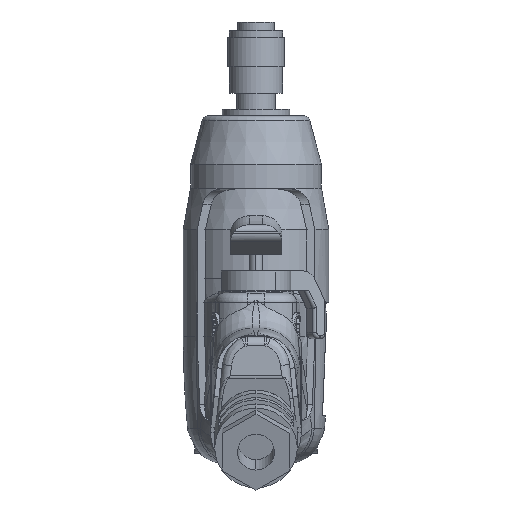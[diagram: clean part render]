
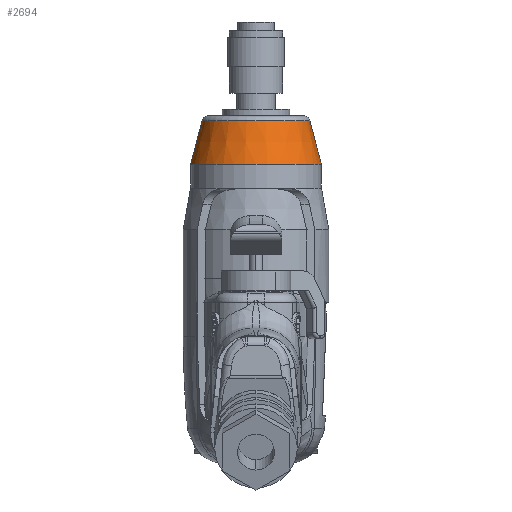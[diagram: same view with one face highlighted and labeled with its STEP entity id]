
A CAD part, front view. The second image highlights one B-rep face of the part: STEP entity #2694.
In plain terms, the highlighted conical face has half-angle 15 degrees and reference radius 16.221 mm.
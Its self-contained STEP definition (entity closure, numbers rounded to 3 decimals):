
#35 = EDGE_CURVE ( 'NONE', #105397, #105901, #8920, .T. ) ;
#70 = EDGE_CURVE ( 'NONE', #105457, #105783, #8992, .T. ) ;
#2557 = EDGE_CURVE ( 'NONE', #105901, #105783, #13914, .T. ) ;
#2694 = ADVANCED_FACE ( 'NONE', ( #14562 ), #14593, .T. ) ;
#2695 = ORIENTED_EDGE ( 'NONE', *, *, #70, .F. ) ;
#2696 = ORIENTED_EDGE ( 'NONE', *, *, #105556, .T. ) ;
#2697 = ORIENTED_EDGE ( 'NONE', *, *, #35, .T. ) ;
#2698 = ORIENTED_EDGE ( 'NONE', *, *, #2557, .T. ) ;
#2709 = EDGE_LOOP ( 'NONE', ( #2695, #2696, #2697, #2698 ) ) ;
#8917 = DIRECTION ( 'NONE',  ( -0.259, 0., -0.966 ) ) ;
#8918 = VECTOR ( 'NONE', #8917, 1000. ) ;
#8919 = CARTESIAN_POINT ( 'NONE',  ( -16.221, 0., -15.3 ) ) ;
#8920 = LINE ( 'NONE', #8919, #8918 ) ;
#8989 = DIRECTION ( 'NONE',  ( 0.259, 0., -0.966 ) ) ;
#8990 = VECTOR ( 'NONE', #8989, 1000. ) ;
#8991 = CARTESIAN_POINT ( 'NONE',  ( 16.221, 0., -15.3 ) ) ;
#8992 = LINE ( 'NONE', #8991, #8990 ) ;
#13902 = DIRECTION ( 'NONE',  ( 1., 0., 0. ) ) ;
#13903 = DIRECTION ( 'NONE',  ( 0., 0., 1. ) ) ;
#13905 = CARTESIAN_POINT ( 'NONE',  ( 0., 0., -30.337 ) ) ;
#13906 = AXIS2_PLACEMENT_3D ( 'NONE', #13905, #13903, #13902 ) ;
#13914 = CIRCLE ( 'NONE', #13906, 20.25 ) ;
#14496 = DIRECTION ( 'NONE',  ( 0., 0., -1. ) ) ;
#14562 = FACE_OUTER_BOUND ( 'NONE', #2709, .T. ) ;
#14593 = CONICAL_SURFACE ( 'NONE', #14597, 16.221, 0.262 ) ;
#14594 = CARTESIAN_POINT ( 'NONE',  ( 0., 0., -15.3 ) ) ;
#14597 = AXIS2_PLACEMENT_3D ( 'NONE', #14594, #14496, #14676 ) ;
#14676 = DIRECTION ( 'NONE',  ( -1., 0., 0. ) ) ;
#100011 = CARTESIAN_POINT ( 'NONE',  ( -16.618, 0., -16.782 ) ) ;
#101079 = CARTESIAN_POINT ( 'NONE',  ( 16.618, 0., -16.782 ) ) ;
#101291 = DIRECTION ( 'NONE',  ( 1., 0., 0. ) ) ;
#101292 = DIRECTION ( 'NONE',  ( 0., 0., -1. ) ) ;
#101293 = CARTESIAN_POINT ( 'NONE',  ( 0., 0., -16.782 ) ) ;
#101294 = AXIS2_PLACEMENT_3D ( 'NONE', #101293, #101292, #101291 ) ;
#101295 = CIRCLE ( 'NONE', #101294, 16.618 ) ;
#101826 = CARTESIAN_POINT ( 'NONE',  ( 20.25, 0., -30.337 ) ) ;
#102109 = CARTESIAN_POINT ( 'NONE',  ( -20.25, 0., -30.337 ) ) ;
#105397 = VERTEX_POINT ( 'NONE', #100011 ) ;
#105457 = VERTEX_POINT ( 'NONE', #101079 ) ;
#105556 = EDGE_CURVE ( 'NONE', #105457, #105397, #101295, .T. ) ;
#105783 = VERTEX_POINT ( 'NONE', #101826 ) ;
#105901 = VERTEX_POINT ( 'NONE', #102109 ) ;
